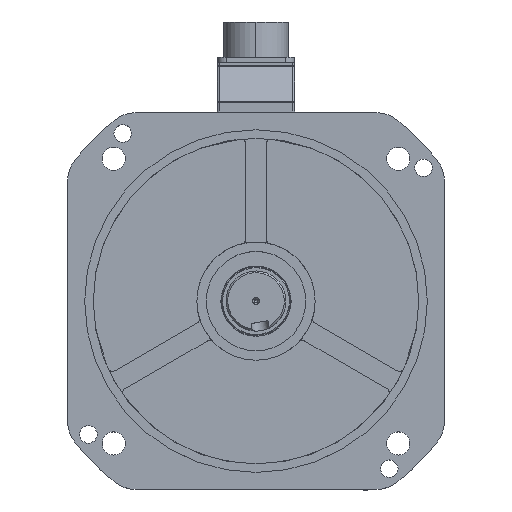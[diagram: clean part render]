
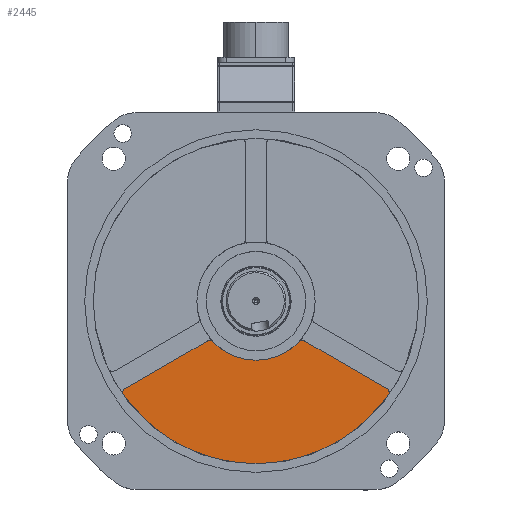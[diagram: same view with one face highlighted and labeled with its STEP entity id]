
A CAD part, top view. The second image highlights one B-rep face of the part: STEP entity #2445.
In plain terms, the highlighted planar face has unit normal (0, 0, 1).
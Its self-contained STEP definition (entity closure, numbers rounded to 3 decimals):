
#563 = CARTESIAN_POINT ( 'NONE',  ( -77.792, 53.574, 16. ) ) ;
#718 = DIRECTION ( 'NONE',  ( 0.866, 0.5, 0. ) ) ;
#1088 = VERTEX_POINT ( 'NONE', #63636 ) ;
#1142 = VERTEX_POINT ( 'NONE', #51592 ) ;
#1229 = AXIS2_PLACEMENT_3D ( 'NONE', #20178, #32707, #26780 ) ;
#1253 = LINE ( 'NONE', #15921, #6589 ) ;
#1276 = DIRECTION ( 'NONE',  ( 1., 0., 0. ) ) ;
#1307 = CIRCLE ( 'NONE', #28067, 34.5 ) ;
#1442 = CIRCLE ( 'NONE', #46025, 3. ) ;
#2445 = ADVANCED_FACE ( 'NONE', ( #25402 ), #67923, .T. ) ;
#4255 = ORIENTED_EDGE ( 'NONE', *, *, #6231, .T. ) ;
#4696 = VERTEX_POINT ( 'NONE', #57591 ) ;
#6231 = EDGE_CURVE ( 'NONE', #67361, #4696, #43268, .T. ) ;
#6496 = CARTESIAN_POINT ( 'NONE',  ( 74.792, 53.574, 16. ) ) ;
#6589 = VECTOR ( 'NONE', #11375, 1000. ) ;
#6909 = CARTESIAN_POINT ( 'NONE',  ( -28.527, 23.398, 16. ) ) ;
#9733 = CIRCLE ( 'NONE', #25387, 3. ) ;
#10880 = VERTEX_POINT ( 'NONE', #55602 ) ;
#11375 = DIRECTION ( 'NONE',  ( -0.866, 0.5, 0. ) ) ;
#12072 = DIRECTION ( 'NONE',  ( 0., 0., 1. ) ) ;
#12862 = CIRCLE ( 'NONE', #64084, 95. ) ;
#15921 = CARTESIAN_POINT ( 'NONE',  ( 3., 5.196, 16. ) ) ;
#16478 = CIRCLE ( 'NONE', #20990, 3. ) ;
#16612 = CARTESIAN_POINT ( 'NONE',  ( 24.865, 23.917, 16. ) ) ;
#16656 = DIRECTION ( 'NONE',  ( 0., 0., 1. ) ) ;
#16891 = EDGE_CURVE ( 'NONE', #4696, #27518, #27611, .T. ) ;
#17433 = DIRECTION ( 'NONE',  ( 0., 0., 1. ) ) ;
#18557 = ORIENTED_EDGE ( 'NONE', *, *, #68121, .T. ) ;
#19783 = ORIENTED_EDGE ( 'NONE', *, *, #28423, .T. ) ;
#20178 = CARTESIAN_POINT ( 'NONE',  ( 0., 0., 16. ) ) ;
#20990 = AXIS2_PLACEMENT_3D ( 'NONE', #45038, #40137, #50288 ) ;
#22214 = EDGE_CURVE ( 'NONE', #66906, #67361, #47860, .T. ) ;
#22505 = CARTESIAN_POINT ( 'NONE',  ( -27.027, 25.996, 16. ) ) ;
#25387 = AXIS2_PLACEMENT_3D ( 'NONE', #22505, #49365, #32966 ) ;
#25402 = FACE_OUTER_BOUND ( 'NONE', #36653, .T. ) ;
#26780 = DIRECTION ( 'NONE',  ( 1., 0., 0. ) ) ;
#27518 = VERTEX_POINT ( 'NONE', #43934 ) ;
#27611 = CIRCLE ( 'NONE', #52107, 3. ) ;
#28067 = AXIS2_PLACEMENT_3D ( 'NONE', #54327, #16656, #55035 ) ;
#28423 = EDGE_CURVE ( 'NONE', #51904, #10880, #9733, .T. ) ;
#29759 = ORIENTED_EDGE ( 'NONE', *, *, #16891, .T. ) ;
#32493 = EDGE_CURVE ( 'NONE', #1088, #55650, #16478, .T. ) ;
#32707 = DIRECTION ( 'NONE',  ( 0., 0., 1. ) ) ;
#32966 = DIRECTION ( 'NONE',  ( 1., 0., 0. ) ) ;
#33647 = ORIENTED_EDGE ( 'NONE', *, *, #50767, .F. ) ;
#33720 = DIRECTION ( 'NONE',  ( 1., 0., 0. ) ) ;
#36653 = EDGE_LOOP ( 'NONE', ( #29759, #56574, #54638, #18557, #43341, #19783, #33647, #49817, #4255 ) ) ;
#36941 = CARTESIAN_POINT ( 'NONE',  ( 0., 0., 16. ) ) ;
#38712 = DIRECTION ( 'NONE',  ( 1., 0., 0. ) ) ;
#38932 = CARTESIAN_POINT ( 'NONE',  ( -74.792, 53.574, 16. ) ) ;
#40137 = DIRECTION ( 'NONE',  ( 0., 0., 1. ) ) ;
#43268 = LINE ( 'NONE', #48536, #65869 ) ;
#43315 = EDGE_CURVE ( 'NONE', #1088, #27518, #12862, .T. ) ;
#43341 = ORIENTED_EDGE ( 'NONE', *, *, #46882, .F. ) ;
#43934 = CARTESIAN_POINT ( 'NONE',  ( 77.231, 55.321, 16. ) ) ;
#44699 = CARTESIAN_POINT ( 'NONE',  ( 28.527, 23.398, 16. ) ) ;
#45038 = CARTESIAN_POINT ( 'NONE',  ( -74.792, 53.574, 16. ) ) ;
#46025 = AXIS2_PLACEMENT_3D ( 'NONE', #38932, #50819, #33720 ) ;
#46882 = EDGE_CURVE ( 'NONE', #51904, #1142, #1253, .T. ) ;
#47091 = DIRECTION ( 'NONE',  ( 1., 0., 0. ) ) ;
#47860 = CIRCLE ( 'NONE', #56771, 3. ) ;
#48536 = CARTESIAN_POINT ( 'NONE',  ( -3., 5.196, 16. ) ) ;
#49365 = DIRECTION ( 'NONE',  ( 0., 0., 1. ) ) ;
#49817 = ORIENTED_EDGE ( 'NONE', *, *, #22214, .T. ) ;
#50288 = DIRECTION ( 'NONE',  ( 1., 0., 0. ) ) ;
#50767 = EDGE_CURVE ( 'NONE', #66906, #10880, #1307, .T. ) ;
#50819 = DIRECTION ( 'NONE',  ( 0., 0., 1. ) ) ;
#51592 = CARTESIAN_POINT ( 'NONE',  ( -76.292, 50.976, 16. ) ) ;
#51904 = VERTEX_POINT ( 'NONE', #6909 ) ;
#52107 = AXIS2_PLACEMENT_3D ( 'NONE', #6496, #12072, #1276 ) ;
#54327 = CARTESIAN_POINT ( 'NONE',  ( 0., 0., 16. ) ) ;
#54638 = ORIENTED_EDGE ( 'NONE', *, *, #32493, .T. ) ;
#55035 = DIRECTION ( 'NONE',  ( 1., 0., 0. ) ) ;
#55602 = CARTESIAN_POINT ( 'NONE',  ( -24.865, 23.917, 16. ) ) ;
#55650 = VERTEX_POINT ( 'NONE', #563 ) ;
#56574 = ORIENTED_EDGE ( 'NONE', *, *, #43315, .F. ) ;
#56771 = AXIS2_PLACEMENT_3D ( 'NONE', #60342, #17433, #38712 ) ;
#57591 = CARTESIAN_POINT ( 'NONE',  ( 76.292, 50.976, 16. ) ) ;
#60342 = CARTESIAN_POINT ( 'NONE',  ( 27.027, 25.996, 16. ) ) ;
#63636 = CARTESIAN_POINT ( 'NONE',  ( -77.231, 55.321, 16. ) ) ;
#63776 = DIRECTION ( 'NONE',  ( 0., 0., -1. ) ) ;
#64084 = AXIS2_PLACEMENT_3D ( 'NONE', #36941, #63776, #47091 ) ;
#65869 = VECTOR ( 'NONE', #718, 1000. ) ;
#66906 = VERTEX_POINT ( 'NONE', #16612 ) ;
#67361 = VERTEX_POINT ( 'NONE', #44699 ) ;
#67923 = PLANE ( 'NONE',  #1229 ) ;
#68121 = EDGE_CURVE ( 'NONE', #55650, #1142, #1442, .T. ) ;
